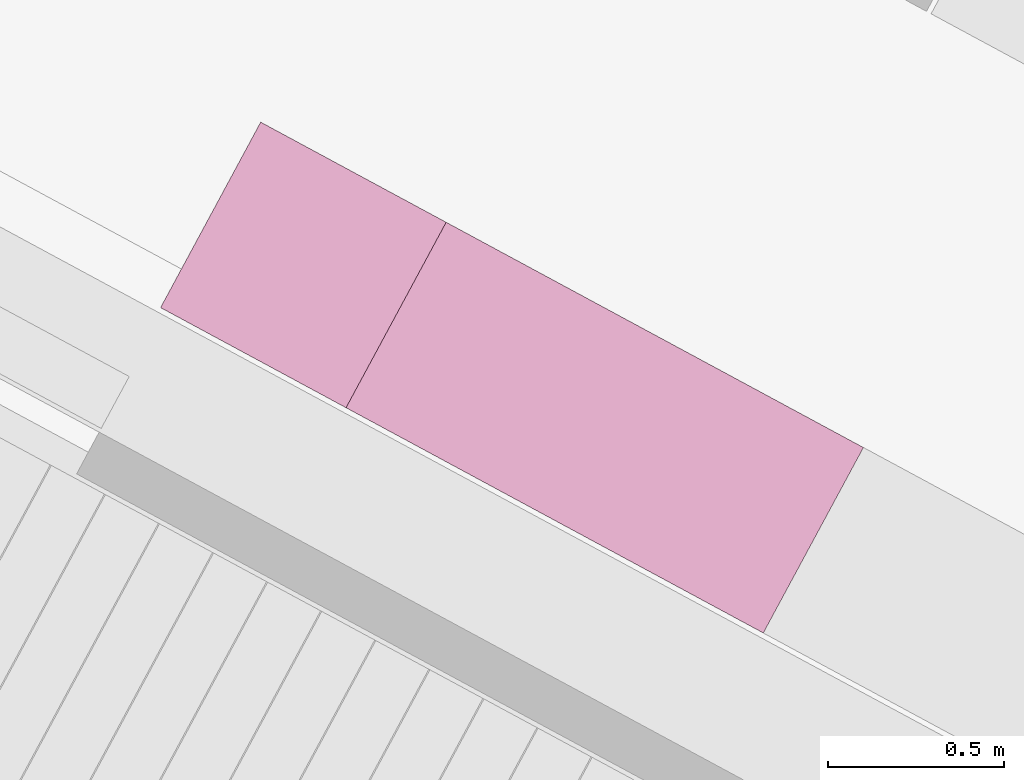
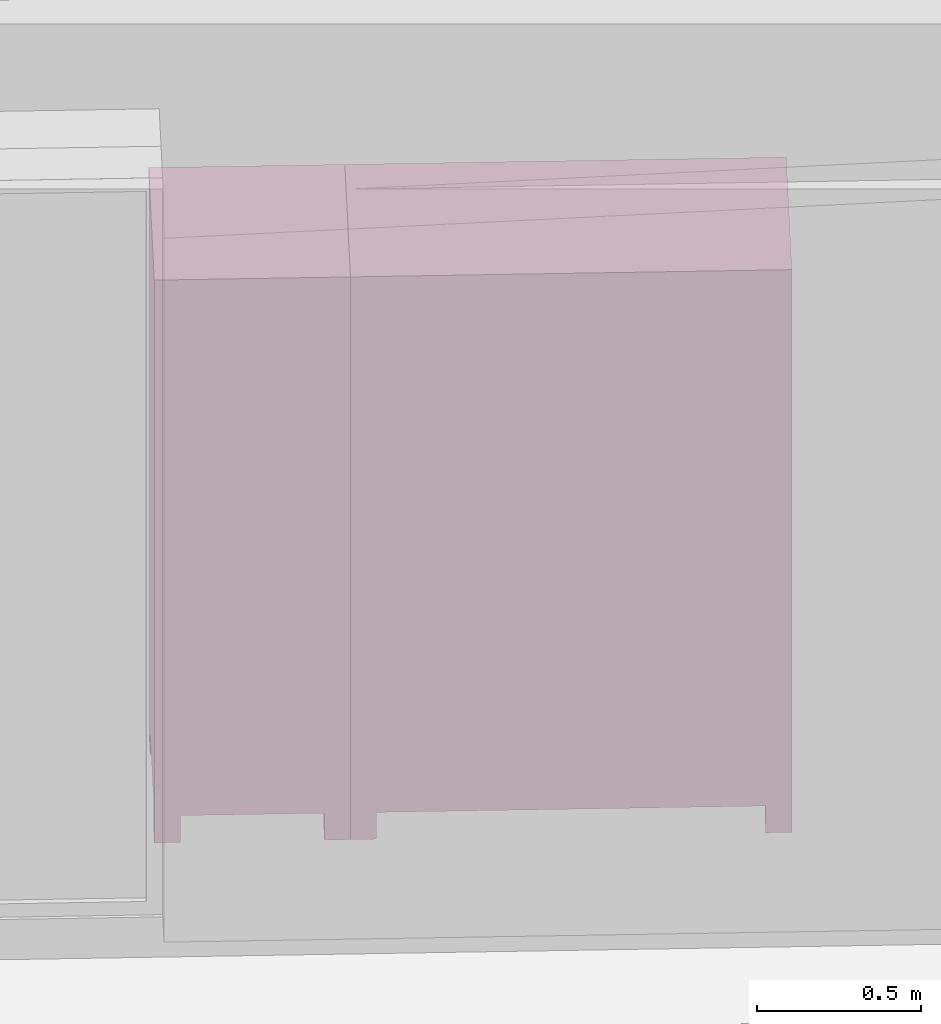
# One storey, part 27 of 41: 2 furnishings.
"""IFC2X3 building model written with IfcOpenShell, lengths in metres."""

from ifc_helpers import new_model, entity, si_unit, converted_unit, derived_unit, money_unit, direction, frame, origin_with_axes, place, context, subcontext, project, spatial, faceted_brep, type_object, element, save


model = new_model("IFC2X3")

# Units and contexts
model_context = context("Model", 3, precision=1e-05, world=origin_with_axes(), true_north=direction((0.0, 1.0)))
body_context = subcontext(model_context, "Body", "Model", "MODEL_VIEW")
ifc_project = project(units=[si_unit("LENGTHUNIT", "METRE"), si_unit("AREAUNIT", "SQUARE_METRE"), si_unit("VOLUMEUNIT", "CUBIC_METRE"), converted_unit("PLANEANGLEUNIT", "DEGREE", entity("IfcPlaneAngleMeasure", 0.0174532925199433), si_unit("PLANEANGLEUNIT", "RADIAN"), dimensions=[0, 0, 0, 0, 0, 0, 0]), money_unit("EUR"), converted_unit("TIMEUNIT", "Year", entity("IfcTimeMeasure", 31556926.0), si_unit("TIMEUNIT", "SECOND"), dimensions=[0, 0, 1, 0, 0, 0, 0]), si_unit("MASSUNIT", "GRAM", prefix="KILO"), si_unit("THERMODYNAMICTEMPERATUREUNIT", "DEGREE_CELSIUS"), si_unit("LUMINOUSINTENSITYUNIT", "LUMEN"), si_unit("ENERGYUNIT", "JOULE", prefix="MEGA"), derived_unit("THERMALCONDUCTANCEUNIT", [(si_unit("POWERUNIT", "WATT"), 1), (si_unit("LENGTHUNIT", "METRE"), -1), (si_unit("THERMODYNAMICTEMPERATUREUNIT", "KELVIN"), -1)]), derived_unit("SPECIFICHEATCAPACITYUNIT", [(si_unit("ENERGYUNIT", "JOULE"), 1), (si_unit("MASSUNIT", "GRAM", prefix="KILO"), -1), (si_unit("THERMODYNAMICTEMPERATUREUNIT", "KELVIN"), -1)]), derived_unit("MASSDENSITYUNIT", [(si_unit("MASSUNIT", "GRAM", prefix="KILO"), 1), (si_unit("VOLUMEUNIT", "CUBIC_METRE"), -1)])], contexts=[model_context])

# Site, building, storey
site_placement = place(None, frame((-3.949935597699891, 1.740105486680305, 0.0), z_axis=(0.0, 0.0, 1.0), x_axis=(0.8799804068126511, -0.475009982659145, 0.0)))
site = spatial("IfcSite", under=ifc_project, at=site_placement, Name="Gelände", CompositionType="ELEMENT")
building_placement = place(site_placement, origin_with_axes())
building = spatial("IfcBuilding", under=site, at=building_placement, Name="Gebäude", CompositionType="ELEMENT")
storey_placement = place(building_placement, frame((0.0, 0.0, 4.55), z_axis=(0.0, 0.0, 1.0), x_axis=(1.0, 0.0, 0.0)))
storey = spatial("IfcBuildingStorey", under=building, at=storey_placement, Name="Staffelgeschoss", CompositionType="ELEMENT", Elevation=4.55)

# Furnishings
furniture_type = type_object("IfcFurnitureType", Name="Kleiderschrank 22", AssemblyPlace="NOTDEFINED")
furnishing_1_placement = place(storey_placement, frame((15.85040854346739, 2.239992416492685, 0.0), z_axis=(0.0, 0.0, 1.0), x_axis=(-1.0, 0.0, 0.0)))
element("IfcFurnishingElement", 1, at=furnishing_1_placement, inside=storey, type_object=furniture_type, Name="Objekt-0066", ObjectType="FURNITURE", context=body_context, shape_type="Brep", body=[
    faceted_brep([(0.02000000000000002, 0.6000000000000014, 0.12), (0.02000000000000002, 0.5800000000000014, 0.12), (0.02000000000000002, 0.5800000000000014, 2.05), (0.02000000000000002, 0.6000000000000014, 2.05), (0.5799999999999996, 0.6000000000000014, 0.12), (0.5799999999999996, 0.5800000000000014, 0.12), (0.5799999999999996, 0.5800000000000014, 2.05), (0.5799999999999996, 0.6000000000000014, 2.05)], [[[0, 1, 2, 3]], [[0, 4, 5, 1]], [[1, 5, 6, 2]], [[3, 2, 6, 7]], [[4, 0, 3, 7]], [[5, 4, 7, 6]]]),
    faceted_brep([(0.5999999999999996, 0.05000000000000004, 0.1), (0.5799999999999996, 0.05000000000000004, 0.1), (0.5799999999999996, 0.6000000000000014, 0.1), (0.5999999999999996, 0.6000000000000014, 0.1), (0.5999999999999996, 0.05000000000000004, 2.07), (0.5799999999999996, 0.05000000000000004, 2.07), (0.5799999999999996, 0.6000000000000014, 2.07), (0.5999999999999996, 0.6000000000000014, 2.07)], [[[0, 1, 2, 3]], [[1, 0, 4, 5]], [[2, 1, 5, 6]], [[3, 2, 6, 7]], [[0, 3, 7, 4]], [[5, 4, 7, 6]]]),
    faceted_brep([(0.02, 0.05000000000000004, 0.1), (0.0, 0.05000000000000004, 0.1), (0.0, 0.6000000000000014, 0.1), (0.02, 0.6000000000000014, 0.1), (0.02, 0.05000000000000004, 2.07), (0.0, 0.05000000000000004, 2.07), (0.0, 0.6000000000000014, 2.07), (0.02, 0.6000000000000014, 2.07)], [[[0, 1, 2, 3]], [[1, 0, 4, 5]], [[2, 1, 5, 6]], [[3, 2, 6, 7]], [[0, 3, 7, 4]], [[5, 4, 7, 6]]]),
    faceted_brep([(0.5799999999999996, 0.05000000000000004, 0.1), (0.02000000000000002, 0.05000000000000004, 0.1), (0.02000000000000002, 0.6000000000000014, 0.1), (0.5799999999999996, 0.6000000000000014, 0.1), (0.5799999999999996, 0.05000000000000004, 0.12), (0.02000000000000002, 0.05000000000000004, 0.12), (0.02000000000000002, 0.6000000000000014, 0.12), (0.5799999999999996, 0.6000000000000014, 0.12)], [[[0, 1, 2, 3]], [[1, 0, 4, 5]], [[2, 1, 5, 6]], [[3, 2, 6, 7]], [[0, 3, 7, 4]], [[5, 4, 7, 6]]]),
    faceted_brep([(0.5799999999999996, 0.05000000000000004, 2.05), (0.02000000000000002, 0.05000000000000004, 2.05), (0.02000000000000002, 0.6000000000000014, 2.05), (0.5799999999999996, 0.6000000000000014, 2.05), (0.5799999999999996, 0.05000000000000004, 2.07), (0.02000000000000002, 0.05000000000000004, 2.07), (0.02000000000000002, 0.6000000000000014, 2.07), (0.5799999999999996, 0.6000000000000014, 2.07)], [[[0, 1, 2, 3]], [[1, 0, 4, 5]], [[2, 1, 5, 6]], [[3, 2, 6, 7]], [[0, 3, 7, 4]], [[5, 4, 7, 6]]]),
    faceted_brep([(0.5999999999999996, 0.6000000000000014, 2.07), (0.5999999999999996, 0.6000000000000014, 2.1), (0.5999999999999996, 0.0, 2.1), (0.5999999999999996, 0.0, 2.07), (0.0, 0.6000000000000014, 2.07), (0.0, 0.6000000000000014, 2.1), (0.0, 0.0, 2.1), (0.0, 0.0, 2.07)], [[[0, 1, 2, 3]], [[4, 5, 1, 0]], [[1, 5, 6, 2]], [[3, 2, 6, 7]], [[0, 3, 7, 4]], [[7, 6, 5, 4]]]),
    faceted_brep([(0.07999999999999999, 0.5200000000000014, 0.0), (0.07999999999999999, 0.6000000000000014, 0.0), (0.07999999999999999, 0.6000000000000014, 0.1), (0.07999999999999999, 0.5200000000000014, 0.1), (0.0, 0.5200000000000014, 0.0), (0.0, 0.6000000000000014, 0.0), (0.0, 0.6000000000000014, 0.1), (0.0, 0.5200000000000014, 0.1)], [[[0, 1, 2, 3]], [[0, 4, 5, 1]], [[1, 5, 6, 2]], [[3, 2, 6, 7]], [[4, 0, 3, 7]], [[5, 4, 7, 6]]]),
    faceted_brep([(0.5999999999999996, 0.5200000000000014, 0.0), (0.5999999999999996, 0.6000000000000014, 0.0), (0.5999999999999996, 0.6000000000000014, 0.1), (0.5999999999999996, 0.5200000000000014, 0.1), (0.5199999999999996, 0.5200000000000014, 0.0), (0.5199999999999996, 0.6000000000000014, 0.0), (0.5199999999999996, 0.6000000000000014, 0.1), (0.5199999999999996, 0.5200000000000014, 0.1)], [[[0, 1, 2, 3]], [[0, 4, 5, 1]], [[1, 5, 6, 2]], [[3, 2, 6, 7]], [[4, 0, 3, 7]], [[5, 4, 7, 6]]]),
    faceted_brep([(0.07999999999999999, 0.05000000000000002, 0.0), (0.07999999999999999, 0.13, 0.0), (0.07999999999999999, 0.13, 0.1), (0.07999999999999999, 0.05000000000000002, 0.1), (0.0, 0.05000000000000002, 0.0), (0.0, 0.13, 0.0), (0.0, 0.13, 0.1), (0.0, 0.05000000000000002, 0.1)], [[[0, 1, 2, 3]], [[0, 4, 5, 1]], [[1, 5, 6, 2]], [[3, 2, 6, 7]], [[4, 0, 3, 7]], [[5, 4, 7, 6]]]),
    faceted_brep([(0.5999999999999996, 0.05000000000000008, 0.0), (0.5999999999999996, 0.1300000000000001, 0.0), (0.5999999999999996, 0.1300000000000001, 0.1), (0.5999999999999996, 0.05000000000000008, 0.1), (0.5199999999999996, 0.05000000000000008, 0.0), (0.5199999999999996, 0.1300000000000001, 0.0), (0.5199999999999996, 0.1300000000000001, 0.1), (0.5199999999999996, 0.05000000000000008, 0.1)], [[[0, 1, 2, 3]], [[0, 4, 5, 1]], [[1, 5, 6, 2]], [[3, 2, 6, 7]], [[4, 0, 3, 7]], [[5, 4, 7, 6]]]),
    faceted_brep([(0.2994999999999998, 0.05, 0.1104999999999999), (0.2994999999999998, 0.05000000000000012, 2.0595), (0.2994999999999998, 0.03000000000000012, 2.0595), (0.2994999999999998, 0.03, 0.1104999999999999), (0.2694999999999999, 0.05, 0.1405), (0.2694999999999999, 0.05000000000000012, 2.0295), (0.2694999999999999, 0.03000000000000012, 2.0295), (0.2694999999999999, 0.03000000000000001, 0.1405)], [[[0, 1, 2, 3]], [[0, 4, 5, 1]], [[1, 5, 6, 2]], [[3, 2, 6, 7]], [[4, 0, 3, 7]], [[5, 4, 7, 6]]]),
    faceted_brep([(0.04050000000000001, 0.05, 0.1405), (0.04050000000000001, 0.05000000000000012, 2.0295), (0.04050000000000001, 0.03000000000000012, 2.0295), (0.04050000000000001, 0.03000000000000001, 0.1405), (0.01050000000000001, 0.05, 0.1104999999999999), (0.01050000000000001, 0.05000000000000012, 2.0595), (0.01050000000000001, 0.03000000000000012, 2.0595), (0.01050000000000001, 0.03, 0.1104999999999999)], [[[0, 1, 2, 3]], [[0, 4, 5, 1]], [[1, 5, 6, 2]], [[3, 2, 6, 7]], [[4, 0, 3, 7]], [[5, 4, 7, 6]]]),
    faceted_brep([(0.01050000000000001, 0.05, 0.1104999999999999), (0.2994999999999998, 0.05, 0.1104999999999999), (0.2994999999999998, 0.03, 0.1104999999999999), (0.01050000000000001, 0.03, 0.1104999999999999), (0.04050000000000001, 0.05, 0.1405), (0.2694999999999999, 0.05, 0.1405), (0.2694999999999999, 0.03000000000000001, 0.1405), (0.04050000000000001, 0.03000000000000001, 0.1405)], [[[0, 1, 2, 3]], [[0, 4, 5, 1]], [[1, 5, 6, 2]], [[3, 2, 6, 7]], [[4, 0, 3, 7]], [[5, 4, 7, 6]]]),
    faceted_brep([(0.04050000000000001, 0.05000000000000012, 2.0295), (0.2694999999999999, 0.05000000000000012, 2.0295), (0.2694999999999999, 0.03000000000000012, 2.0295), (0.04050000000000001, 0.03000000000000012, 2.0295), (0.01050000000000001, 0.05000000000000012, 2.0595), (0.2994999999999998, 0.05000000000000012, 2.0595), (0.2994999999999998, 0.03000000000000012, 2.0595), (0.01050000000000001, 0.03000000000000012, 2.0595)], [[[0, 1, 2, 3]], [[0, 4, 5, 1]], [[1, 5, 6, 2]], [[3, 2, 6, 7]], [[4, 0, 3, 7]], [[5, 4, 7, 6]]]),
    faceted_brep([(0.2694999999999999, 0.04500000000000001, 0.1405), (0.2694999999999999, 0.04500000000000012, 2.0295), (0.2694999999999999, 0.03500000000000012, 2.0295), (0.2694999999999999, 0.035, 0.1405), (0.04050000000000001, 0.04500000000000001, 0.1405), (0.04050000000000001, 0.04500000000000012, 2.0295), (0.04050000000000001, 0.03500000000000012, 2.0295), (0.04050000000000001, 0.035, 0.1405)], [[[0, 1, 2, 3]], [[0, 4, 5, 1]], [[1, 5, 6, 2]], [[3, 2, 6, 7]], [[4, 0, 3, 7]], [[5, 4, 7, 6]]]),
    faceted_brep([(0.2593923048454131, 0.035, 0.954), (0.2549999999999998, 0.035, 0.9496076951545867), (0.2489999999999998, 0.035, 0.948), (0.2429999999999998, 0.035, 0.9496076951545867), (0.2386076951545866, 0.035, 0.954), (0.2369999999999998, 0.035, 0.96), (0.2386076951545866, 0.035, 0.966), (0.2429999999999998, 0.035, 0.9703923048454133), (0.2489999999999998, 0.035, 0.972), (0.2549999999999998, 0.035, 0.9703923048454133), (0.2593923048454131, 0.035, 0.966), (0.2609999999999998, 0.035, 0.96), (0.2593923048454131, 0.01, 0.954), (0.2549999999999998, 0.01, 0.9496076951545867), (0.2489999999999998, 0.01, 0.948), (0.2429999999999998, 0.01, 0.9496076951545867), (0.2386076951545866, 0.01, 0.954), (0.2369999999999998, 0.01, 0.96), (0.2386076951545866, 0.01, 0.966), (0.2429999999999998, 0.01, 0.9703923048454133), (0.2489999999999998, 0.01, 0.972), (0.2549999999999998, 0.01, 0.9703923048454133), (0.2593923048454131, 0.01, 0.966), (0.2609999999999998, 0.01, 0.96)], [[[0, 1, 2, 3, 4, 5, 6, 7, 8, 9, 10, 11]], [[1, 0, 12, 13]], [[2, 1, 13, 14]], [[3, 2, 14, 15]], [[4, 3, 15, 16]], [[5, 4, 16, 17]], [[6, 5, 17, 18]], [[7, 6, 18, 19]], [[8, 7, 19, 20]], [[9, 8, 20, 21]], [[10, 9, 21, 22]], [[11, 10, 22, 23]], [[0, 11, 23, 12]], [[12, 23, 22, 21, 20, 19, 18, 17, 16, 15, 14, 13]]]),
    faceted_brep([(0.5904999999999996, 0.05, 0.1104999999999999), (0.5904999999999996, 0.05000000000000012, 2.0595), (0.5904999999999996, 0.03000000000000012, 2.0595), (0.5904999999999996, 0.03, 0.1104999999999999), (0.5604999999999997, 0.05, 0.1405), (0.5604999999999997, 0.05000000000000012, 2.0295), (0.5604999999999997, 0.03000000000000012, 2.0295), (0.5604999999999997, 0.03000000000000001, 0.1405)], [[[0, 1, 2, 3]], [[0, 4, 5, 1]], [[1, 5, 6, 2]], [[3, 2, 6, 7]], [[4, 0, 3, 7]], [[5, 4, 7, 6]]]),
    faceted_brep([(0.3314999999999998, 0.05, 0.1405), (0.3314999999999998, 0.05000000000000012, 2.0295), (0.3314999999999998, 0.03000000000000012, 2.0295), (0.3314999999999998, 0.03000000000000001, 0.1405), (0.3014999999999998, 0.05, 0.1104999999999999), (0.3014999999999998, 0.05000000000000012, 2.0595), (0.3014999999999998, 0.03000000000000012, 2.0595), (0.3014999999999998, 0.03, 0.1104999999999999)], [[[0, 1, 2, 3]], [[0, 4, 5, 1]], [[1, 5, 6, 2]], [[3, 2, 6, 7]], [[4, 0, 3, 7]], [[5, 4, 7, 6]]]),
    faceted_brep([(0.3014999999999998, 0.05, 0.1104999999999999), (0.5904999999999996, 0.05, 0.1104999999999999), (0.5904999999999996, 0.03, 0.1104999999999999), (0.3014999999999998, 0.03, 0.1104999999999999), (0.3314999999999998, 0.05, 0.1405), (0.5604999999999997, 0.05, 0.1405), (0.5604999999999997, 0.03000000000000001, 0.1405), (0.3314999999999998, 0.03000000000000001, 0.1405)], [[[0, 1, 2, 3]], [[0, 4, 5, 1]], [[1, 5, 6, 2]], [[3, 2, 6, 7]], [[4, 0, 3, 7]], [[5, 4, 7, 6]]]),
    faceted_brep([(0.3314999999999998, 0.05000000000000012, 2.0295), (0.5604999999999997, 0.05000000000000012, 2.0295), (0.5604999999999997, 0.03000000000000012, 2.0295), (0.3314999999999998, 0.03000000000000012, 2.0295), (0.3014999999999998, 0.05000000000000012, 2.0595), (0.5904999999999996, 0.05000000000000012, 2.0595), (0.5904999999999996, 0.03000000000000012, 2.0595), (0.3014999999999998, 0.03000000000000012, 2.0595)], [[[0, 1, 2, 3]], [[0, 4, 5, 1]], [[1, 5, 6, 2]], [[3, 2, 6, 7]], [[4, 0, 3, 7]], [[5, 4, 7, 6]]]),
    faceted_brep([(0.5604999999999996, 0.04500000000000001, 0.1405), (0.5604999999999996, 0.04500000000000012, 2.0295), (0.5604999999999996, 0.04000000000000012, 2.0295), (0.5604999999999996, 0.04000000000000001, 0.1405), (0.3314999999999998, 0.04500000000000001, 0.1405), (0.3314999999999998, 0.04500000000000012, 2.0295), (0.3314999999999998, 0.04000000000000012, 2.0295), (0.3314999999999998, 0.04000000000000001, 0.1405)], [[[0, 1, 2, 3]], [[0, 4, 5, 1]], [[1, 5, 6, 2]], [[3, 2, 6, 7]], [[4, 0, 3, 7]], [[5, 4, 7, 6]]]),
    faceted_brep([(0.5604999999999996, 0.04000000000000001, 0.1405), (0.5604999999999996, 0.04000000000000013, 2.0295), (0.5604999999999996, 0.03500000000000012, 2.0295), (0.5604999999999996, 0.03500000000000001, 0.1405), (0.3314999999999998, 0.04000000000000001, 0.1405), (0.3314999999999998, 0.04000000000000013, 2.0295), (0.3314999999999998, 0.03500000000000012, 2.0295), (0.3314999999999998, 0.03500000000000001, 0.1405)], [[[0, 1, 2, 3]], [[0, 4, 5, 1]], [[1, 5, 6, 2]], [[3, 2, 6, 7]], [[4, 0, 3, 7]], [[5, 4, 7, 6]]]),
    faceted_brep([(0.3406076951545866, 0.035, 0.954), (0.3389999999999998, 0.035, 0.96), (0.3406076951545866, 0.035, 0.966), (0.3449999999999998, 0.035, 0.9703923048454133), (0.3509999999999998, 0.035, 0.972), (0.3569999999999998, 0.035, 0.9703923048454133), (0.3613923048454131, 0.035, 0.966), (0.3629999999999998, 0.035, 0.96), (0.3613923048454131, 0.035, 0.954), (0.3569999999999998, 0.035, 0.9496076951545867), (0.3509999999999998, 0.035, 0.948), (0.3449999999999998, 0.035, 0.9496076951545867), (0.3406076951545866, 0.01, 0.954), (0.3389999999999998, 0.01, 0.96), (0.3406076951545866, 0.01, 0.966), (0.3449999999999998, 0.01, 0.9703923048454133), (0.3509999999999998, 0.01, 0.972), (0.3569999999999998, 0.01, 0.9703923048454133), (0.3613923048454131, 0.01, 0.966), (0.3629999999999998, 0.01, 0.96), (0.3613923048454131, 0.01, 0.954), (0.3569999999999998, 0.01, 0.9496076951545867), (0.3509999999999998, 0.01, 0.948), (0.3449999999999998, 0.01, 0.9496076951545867)], [[[0, 1, 2, 3, 4, 5, 6, 7, 8, 9, 10, 11]], [[0, 12, 13, 1]], [[1, 13, 14, 2]], [[2, 14, 15, 3]], [[3, 15, 16, 4]], [[4, 16, 17, 5]], [[5, 17, 18, 6]], [[6, 18, 19, 7]], [[7, 19, 20, 8]], [[8, 20, 21, 9]], [[9, 21, 22, 10]], [[10, 22, 23, 11]], [[11, 23, 12, 0]], [[12, 23, 22, 21, 20, 19, 18, 17, 16, 15, 14, 13]]]),
])
furnishing_2_placement = place(storey_placement, frame((17.20040854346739, 2.239992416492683, 0.0), z_axis=(0.0, 0.0, 1.0), x_axis=(-1.0, 0.0, 0.0)))
element("IfcFurnishingElement", 2, at=furnishing_2_placement, inside=storey, type_object=furniture_type, Name="Objekt-0066", ObjectType="FURNITURE", context=body_context, shape_type="Brep", body=[
    faceted_brep([(0.02000000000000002, 0.6000000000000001, 0.12), (0.02000000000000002, 0.5800000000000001, 0.12), (0.02000000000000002, 0.5800000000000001, 2.05), (0.02000000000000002, 0.6000000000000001, 2.05), (1.33, 0.6000000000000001, 0.12), (1.33, 0.5800000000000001, 0.12), (1.33, 0.5800000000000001, 2.05), (1.33, 0.6000000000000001, 2.05)], [[[0, 1, 2, 3]], [[0, 4, 5, 1]], [[1, 5, 6, 2]], [[3, 2, 6, 7]], [[4, 0, 3, 7]], [[5, 4, 7, 6]]]),
    faceted_brep([(1.35, 0.05000000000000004, 0.1), (1.33, 0.05000000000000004, 0.1), (1.33, 0.6000000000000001, 0.1), (1.35, 0.6000000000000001, 0.1), (1.35, 0.05000000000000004, 2.07), (1.33, 0.05000000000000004, 2.07), (1.33, 0.6000000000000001, 2.07), (1.35, 0.6000000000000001, 2.07)], [[[0, 1, 2, 3]], [[1, 0, 4, 5]], [[2, 1, 5, 6]], [[3, 2, 6, 7]], [[0, 3, 7, 4]], [[5, 4, 7, 6]]]),
    faceted_brep([(0.02, 0.05000000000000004, 0.1), (0.0, 0.05000000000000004, 0.1), (0.0, 0.6000000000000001, 0.1), (0.02, 0.6000000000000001, 0.1), (0.02, 0.05000000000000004, 2.07), (0.0, 0.05000000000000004, 2.07), (0.0, 0.6000000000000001, 2.07), (0.02, 0.6000000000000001, 2.07)], [[[0, 1, 2, 3]], [[1, 0, 4, 5]], [[2, 1, 5, 6]], [[3, 2, 6, 7]], [[0, 3, 7, 4]], [[5, 4, 7, 6]]]),
    faceted_brep([(1.33, 0.05000000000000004, 0.1), (0.02000000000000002, 0.05000000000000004, 0.1), (0.02000000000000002, 0.6000000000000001, 0.1), (1.33, 0.6000000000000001, 0.1), (1.33, 0.05000000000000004, 0.12), (0.02000000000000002, 0.05000000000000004, 0.12), (0.02000000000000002, 0.6000000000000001, 0.12), (1.33, 0.6000000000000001, 0.12)], [[[0, 1, 2, 3]], [[1, 0, 4, 5]], [[2, 1, 5, 6]], [[3, 2, 6, 7]], [[0, 3, 7, 4]], [[5, 4, 7, 6]]]),
    faceted_brep([(1.33, 0.05000000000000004, 2.05), (0.02000000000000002, 0.05000000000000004, 2.05), (0.02000000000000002, 0.6000000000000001, 2.05), (1.33, 0.6000000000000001, 2.05), (1.33, 0.05000000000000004, 2.07), (0.02000000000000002, 0.05000000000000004, 2.07), (0.02000000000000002, 0.6000000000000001, 2.07), (1.33, 0.6000000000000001, 2.07)], [[[0, 1, 2, 3]], [[1, 0, 4, 5]], [[2, 1, 5, 6]], [[3, 2, 6, 7]], [[0, 3, 7, 4]], [[5, 4, 7, 6]]]),
    faceted_brep([(1.35, 0.6000000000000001, 2.07), (1.35, 0.6000000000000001, 2.1), (1.35, 0.0, 2.1), (1.35, 0.0, 2.07), (0.0, 0.6000000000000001, 2.07), (0.0, 0.6000000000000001, 2.1), (0.0, 0.0, 2.1), (0.0, 0.0, 2.07)], [[[0, 1, 2, 3]], [[4, 5, 1, 0]], [[1, 5, 6, 2]], [[3, 2, 6, 7]], [[0, 3, 7, 4]], [[7, 6, 5, 4]]]),
    faceted_brep([(0.08000000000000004, 0.52, 0.0), (0.08000000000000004, 0.6000000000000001, 0.0), (0.08000000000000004, 0.6000000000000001, 0.1), (0.08000000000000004, 0.52, 0.1), (0.0, 0.52, 0.0), (0.0, 0.6000000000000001, 0.0), (0.0, 0.6000000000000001, 0.1), (0.0, 0.52, 0.1)], [[[0, 1, 2, 3]], [[0, 4, 5, 1]], [[1, 5, 6, 2]], [[3, 2, 6, 7]], [[4, 0, 3, 7]], [[5, 4, 7, 6]]]),
    faceted_brep([(1.35, 0.52, 0.0), (1.35, 0.6000000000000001, 0.0), (1.35, 0.6000000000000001, 0.1), (1.35, 0.52, 0.1), (1.27, 0.52, 0.0), (1.27, 0.6000000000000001, 0.0), (1.27, 0.6000000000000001, 0.1), (1.27, 0.52, 0.1)], [[[0, 1, 2, 3]], [[0, 4, 5, 1]], [[1, 5, 6, 2]], [[3, 2, 6, 7]], [[4, 0, 3, 7]], [[5, 4, 7, 6]]]),
    faceted_brep([(0.08000000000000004, 0.05000000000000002, 0.0), (0.08000000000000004, 0.13, 0.0), (0.08000000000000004, 0.13, 0.1), (0.08000000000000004, 0.05000000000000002, 0.1), (0.0, 0.05000000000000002, 0.0), (0.0, 0.13, 0.0), (0.0, 0.13, 0.1), (0.0, 0.05000000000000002, 0.1)], [[[0, 1, 2, 3]], [[0, 4, 5, 1]], [[1, 5, 6, 2]], [[3, 2, 6, 7]], [[4, 0, 3, 7]], [[5, 4, 7, 6]]]),
    faceted_brep([(1.35, 0.05000000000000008, 0.0), (1.35, 0.1300000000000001, 0.0), (1.35, 0.1300000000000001, 0.1), (1.35, 0.05000000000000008, 0.1), (1.27, 0.05000000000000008, 0.0), (1.27, 0.1300000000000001, 0.0), (1.27, 0.1300000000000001, 0.1), (1.27, 0.05000000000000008, 0.1)], [[[0, 1, 2, 3]], [[0, 4, 5, 1]], [[1, 5, 6, 2]], [[3, 2, 6, 7]], [[4, 0, 3, 7]], [[5, 4, 7, 6]]]),
    faceted_brep([(0.6744999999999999, 0.05, 0.1104999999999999), (0.6744999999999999, 0.05000000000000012, 2.0595), (0.6744999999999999, 0.03000000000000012, 2.0595), (0.6744999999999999, 0.03, 0.1104999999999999), (0.6444999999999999, 0.05, 0.1405), (0.6444999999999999, 0.05000000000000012, 2.0295), (0.6444999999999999, 0.03000000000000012, 2.0295), (0.6444999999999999, 0.03000000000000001, 0.1405)], [[[0, 1, 2, 3]], [[0, 4, 5, 1]], [[1, 5, 6, 2]], [[3, 2, 6, 7]], [[4, 0, 3, 7]], [[5, 4, 7, 6]]]),
    faceted_brep([(0.04049999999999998, 0.05, 0.1405), (0.04049999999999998, 0.05000000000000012, 2.0295), (0.04049999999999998, 0.03000000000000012, 2.0295), (0.04049999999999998, 0.03000000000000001, 0.1405), (0.01050000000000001, 0.05, 0.1104999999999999), (0.01050000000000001, 0.05000000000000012, 2.0595), (0.01050000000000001, 0.03000000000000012, 2.0595), (0.01050000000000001, 0.03, 0.1104999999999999)], [[[0, 1, 2, 3]], [[0, 4, 5, 1]], [[1, 5, 6, 2]], [[3, 2, 6, 7]], [[4, 0, 3, 7]], [[5, 4, 7, 6]]]),
    faceted_brep([(0.01050000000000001, 0.05, 0.1104999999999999), (0.6744999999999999, 0.05, 0.1104999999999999), (0.6744999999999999, 0.03, 0.1104999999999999), (0.01050000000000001, 0.03, 0.1104999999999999), (0.04049999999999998, 0.05, 0.1405), (0.6444999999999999, 0.05, 0.1405), (0.6444999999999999, 0.03000000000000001, 0.1405), (0.04049999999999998, 0.03000000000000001, 0.1405)], [[[0, 1, 2, 3]], [[0, 4, 5, 1]], [[1, 5, 6, 2]], [[3, 2, 6, 7]], [[4, 0, 3, 7]], [[5, 4, 7, 6]]]),
    faceted_brep([(0.04049999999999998, 0.05000000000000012, 2.0295), (0.6444999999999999, 0.05000000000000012, 2.0295), (0.6444999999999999, 0.03000000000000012, 2.0295), (0.04049999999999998, 0.03000000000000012, 2.0295), (0.01050000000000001, 0.05000000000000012, 2.0595), (0.6744999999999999, 0.05000000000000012, 2.0595), (0.6744999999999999, 0.03000000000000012, 2.0595), (0.01050000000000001, 0.03000000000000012, 2.0595)], [[[0, 1, 2, 3]], [[0, 4, 5, 1]], [[1, 5, 6, 2]], [[3, 2, 6, 7]], [[4, 0, 3, 7]], [[5, 4, 7, 6]]]),
    faceted_brep([(0.6444999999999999, 0.04500000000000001, 0.1405), (0.6444999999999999, 0.04500000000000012, 2.0295), (0.6444999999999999, 0.03500000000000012, 2.0295), (0.6444999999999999, 0.035, 0.1405), (0.04049999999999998, 0.04500000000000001, 0.1405), (0.04049999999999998, 0.04500000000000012, 2.0295), (0.04049999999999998, 0.03500000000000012, 2.0295), (0.04049999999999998, 0.035, 0.1405)], [[[0, 1, 2, 3]], [[0, 4, 5, 1]], [[1, 5, 6, 2]], [[3, 2, 6, 7]], [[4, 0, 3, 7]], [[5, 4, 7, 6]]]),
    faceted_brep([(0.634392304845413, 0.035, 0.954), (0.6299999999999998, 0.035, 0.9496076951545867), (0.6239999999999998, 0.035, 0.948), (0.6179999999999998, 0.035, 0.9496076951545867), (0.6136076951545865, 0.035, 0.954), (0.6119999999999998, 0.035, 0.96), (0.6136076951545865, 0.035, 0.966), (0.6179999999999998, 0.035, 0.9703923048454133), (0.6239999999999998, 0.035, 0.972), (0.6299999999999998, 0.035, 0.9703923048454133), (0.6343923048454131, 0.035, 0.966), (0.6359999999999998, 0.035, 0.96), (0.634392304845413, 0.01, 0.954), (0.6299999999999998, 0.01, 0.9496076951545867), (0.6239999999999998, 0.01, 0.948), (0.6179999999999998, 0.01, 0.9496076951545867), (0.6136076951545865, 0.01, 0.954), (0.6119999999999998, 0.01, 0.96), (0.6136076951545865, 0.01, 0.966), (0.6179999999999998, 0.01, 0.9703923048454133), (0.6239999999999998, 0.01, 0.972), (0.6299999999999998, 0.01, 0.9703923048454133), (0.6343923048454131, 0.01, 0.966), (0.6359999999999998, 0.01, 0.96)], [[[0, 1, 2, 3, 4, 5, 6, 7, 8, 9, 10, 11]], [[1, 0, 12, 13]], [[2, 1, 13, 14]], [[3, 2, 14, 15]], [[4, 3, 15, 16]], [[5, 4, 16, 17]], [[6, 5, 17, 18]], [[7, 6, 18, 19]], [[8, 7, 19, 20]], [[9, 8, 20, 21]], [[10, 9, 21, 22]], [[11, 10, 22, 23]], [[0, 11, 23, 12]], [[12, 23, 22, 21, 20, 19, 18, 17, 16, 15, 14, 13]]]),
    faceted_brep([(1.3405, 0.05, 0.1104999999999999), (1.3405, 0.05000000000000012, 2.0595), (1.3405, 0.03000000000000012, 2.0595), (1.3405, 0.03, 0.1104999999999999), (1.3105, 0.05, 0.1405), (1.3105, 0.05000000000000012, 2.0295), (1.3105, 0.03000000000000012, 2.0295), (1.3105, 0.03000000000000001, 0.1405)], [[[0, 1, 2, 3]], [[0, 4, 5, 1]], [[1, 5, 6, 2]], [[3, 2, 6, 7]], [[4, 0, 3, 7]], [[5, 4, 7, 6]]]),
    faceted_brep([(0.7064999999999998, 0.05, 0.1405), (0.7064999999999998, 0.05000000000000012, 2.0295), (0.7064999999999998, 0.03000000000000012, 2.0295), (0.7064999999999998, 0.03000000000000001, 0.1405), (0.6764999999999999, 0.05, 0.1104999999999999), (0.6764999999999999, 0.05000000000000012, 2.0595), (0.6764999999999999, 0.03000000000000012, 2.0595), (0.6764999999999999, 0.03, 0.1104999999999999)], [[[0, 1, 2, 3]], [[0, 4, 5, 1]], [[1, 5, 6, 2]], [[3, 2, 6, 7]], [[4, 0, 3, 7]], [[5, 4, 7, 6]]]),
    faceted_brep([(0.6764999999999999, 0.05, 0.1104999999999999), (1.3405, 0.05, 0.1104999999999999), (1.3405, 0.03, 0.1104999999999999), (0.6764999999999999, 0.03, 0.1104999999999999), (0.7064999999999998, 0.05, 0.1405), (1.3105, 0.05, 0.1405), (1.3105, 0.03000000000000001, 0.1405), (0.7064999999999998, 0.03000000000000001, 0.1405)], [[[0, 1, 2, 3]], [[0, 4, 5, 1]], [[1, 5, 6, 2]], [[3, 2, 6, 7]], [[4, 0, 3, 7]], [[5, 4, 7, 6]]]),
    faceted_brep([(0.7064999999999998, 0.05000000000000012, 2.0295), (1.3105, 0.05000000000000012, 2.0295), (1.3105, 0.03000000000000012, 2.0295), (0.7064999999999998, 0.03000000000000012, 2.0295), (0.6764999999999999, 0.05000000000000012, 2.0595), (1.3405, 0.05000000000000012, 2.0595), (1.3405, 0.03000000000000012, 2.0595), (0.6764999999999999, 0.03000000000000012, 2.0595)], [[[0, 1, 2, 3]], [[0, 4, 5, 1]], [[1, 5, 6, 2]], [[3, 2, 6, 7]], [[4, 0, 3, 7]], [[5, 4, 7, 6]]]),
    faceted_brep([(1.3105, 0.04500000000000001, 0.1405), (1.3105, 0.04500000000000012, 2.0295), (1.3105, 0.04000000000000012, 2.0295), (1.3105, 0.04000000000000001, 0.1405), (0.7064999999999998, 0.04500000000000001, 0.1405), (0.7064999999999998, 0.04500000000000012, 2.0295), (0.7064999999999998, 0.04000000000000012, 2.0295), (0.7064999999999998, 0.04000000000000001, 0.1405)], [[[0, 1, 2, 3]], [[0, 4, 5, 1]], [[1, 5, 6, 2]], [[3, 2, 6, 7]], [[4, 0, 3, 7]], [[5, 4, 7, 6]]]),
    faceted_brep([(1.3105, 0.04000000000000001, 0.1405), (1.3105, 0.04000000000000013, 2.0295), (1.3105, 0.03500000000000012, 2.0295), (1.3105, 0.03500000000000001, 0.1405), (0.7064999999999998, 0.04000000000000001, 0.1405), (0.7064999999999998, 0.04000000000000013, 2.0295), (0.7064999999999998, 0.03500000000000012, 2.0295), (0.7064999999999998, 0.03500000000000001, 0.1405)], [[[0, 1, 2, 3]], [[0, 4, 5, 1]], [[1, 5, 6, 2]], [[3, 2, 6, 7]], [[4, 0, 3, 7]], [[5, 4, 7, 6]]]),
    faceted_brep([(0.7156076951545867, 0.035, 0.954), (0.7139999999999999, 0.035, 0.96), (0.7156076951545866, 0.035, 0.966), (0.7199999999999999, 0.035, 0.9703923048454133), (0.7259999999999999, 0.035, 0.972), (0.7319999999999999, 0.035, 0.9703923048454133), (0.7363923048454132, 0.035, 0.966), (0.7379999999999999, 0.035, 0.96), (0.7363923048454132, 0.035, 0.954), (0.7319999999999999, 0.035, 0.9496076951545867), (0.7259999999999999, 0.035, 0.948), (0.7199999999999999, 0.035, 0.9496076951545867), (0.7156076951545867, 0.01, 0.954), (0.7139999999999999, 0.01, 0.96), (0.7156076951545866, 0.01, 0.966), (0.7199999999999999, 0.01, 0.9703923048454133), (0.7259999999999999, 0.01, 0.972), (0.7319999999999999, 0.01, 0.9703923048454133), (0.7363923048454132, 0.01, 0.966), (0.7379999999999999, 0.01, 0.96), (0.7363923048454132, 0.01, 0.954), (0.7319999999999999, 0.01, 0.9496076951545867), (0.7259999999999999, 0.01, 0.948), (0.7199999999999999, 0.01, 0.9496076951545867)], [[[0, 1, 2, 3, 4, 5, 6, 7, 8, 9, 10, 11]], [[0, 12, 13, 1]], [[1, 13, 14, 2]], [[2, 14, 15, 3]], [[3, 15, 16, 4]], [[4, 16, 17, 5]], [[5, 17, 18, 6]], [[6, 18, 19, 7]], [[7, 19, 20, 8]], [[8, 20, 21, 9]], [[9, 21, 22, 10]], [[10, 22, 23, 11]], [[11, 23, 12, 0]], [[12, 23, 22, 21, 20, 19, 18, 17, 16, 15, 14, 13]]]),
])

save(model, "model.ifc")
